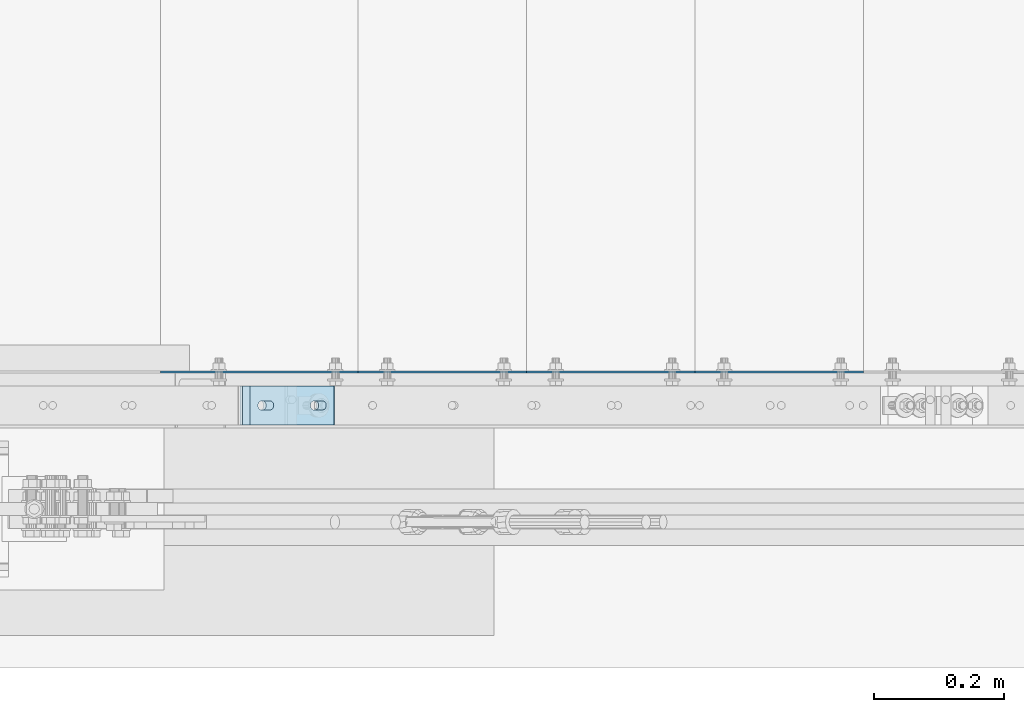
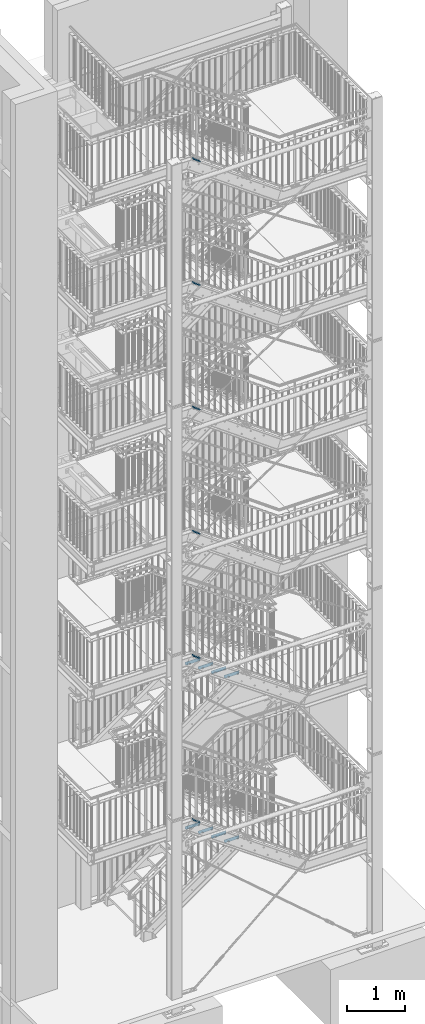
# One storey, part 166 of 821: 14 plates, 28 openings.
"""IFC2X3 building model written with IfcOpenShell, lengths in millimetres."""

from ifc_helpers import new_model, entity, si_unit, converted_unit, point, frame, frame_2d, origin, origin_with_axes, origin_2d_with_axis, place, context, project, spatial, polyline, circle_curve, line_curve, trimmed, segment, composite_curve, circle, outline, extrude, material, layer, layer_set, element, save


model = new_model("IFC2X3")

# Units and contexts
model_context = context("Model", 3, precision=1e-09, world=origin_with_axes())
ifc_project = project(units=[si_unit("LENGTHUNIT", "METRE", prefix="MILLI"), si_unit("AREAUNIT", "SQUARE_METRE"), si_unit("VOLUMEUNIT", "CUBIC_METRE"), converted_unit("PLANEANGLEUNIT", "DEGREE", entity("IfcPlaneAngleMeasure", 0.01745329), si_unit("PLANEANGLEUNIT", "RADIAN"), dimensions=[0, 0, 0, 0, 0, 0, 0])], contexts=[model_context])

# Site, building, storey
site_placement = place(None, origin_with_axes())
site = spatial("IfcSite", under=ifc_project, at=site_placement, Name="Cnopf'sche Kinderklinik", CompositionType="ELEMENT")
building_placement = place(site_placement, origin_with_axes())
building = spatial("IfcBuilding", under=site, at=building_placement, Name="Struktur 1", CompositionType="ELEMENT")
storey_placement = place(building_placement, origin_with_axes())
storey = spatial("IfcBuildingStorey", under=building, at=storey_placement, Name="Default Storey", CompositionType="ELEMENT", Elevation=0.0)

# Plate, openings
ifc_material = material(Name="S235JR")
ifc_layer_1 = layer(ifc_material, 20.0)
ifc_layer_set_1 = layer_set([ifc_layer_1], Name="S235JR")
plate_1_placement = place(None, frame((5314.268058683, 4496.736971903, 3831.785480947), z_axis=(0.579973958, 0.0, 0.814635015), x_axis=(0.814635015, 0.0, -0.579973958)))
plate_1 = element("IfcPlate", 1, at=plate_1_placement, inside=storey, material=ifc_layer_set_1, Name="Plate#510", ObjectType="Plate#510", context=model_context, shape_type="SweptSolid", body=[
    extrude(outline(polyline([(0.0, 0.0), (160.0, 0.0), (160.0, 60.0), (0.0, 60.0), (0.0, 0.0)])), origin_with_axes(), (0.0, 0.0, 1.0), 20.0),
])
opening_1_placement = place(plate_1_placement, frame((38.0, 37.001, 20.5), z_axis=(0.0, 0.0, 1.0), x_axis=(-1.0, 0.0, 0.0)))
element("IfcOpeningElement", 2, at=opening_1_placement, cuts=plate_1, ObjectType="Opening", context=model_context, shape_type="SweptSolid", body=[
    extrude(outline(composite_curve([segment(trimmed(line_curve((0.0, 0.0), (1.0, 0.0), 16.0), [point((0.0, 0.0))], [point((16.0, 0.0))], True, "CARTESIAN"), True, "CONTINUOUS"), segment(trimmed(circle_curve(frame_2d((16.0, 7.001), x_axis=(1.0, 0.0)), 7.001), [point((16.0, 0.0))], [point((16.0, 14.002))], True, "CARTESIAN"), True, "CONTINUOUS"), segment(trimmed(line_curve((16.0, 14.002), (-1.0, 0.0), 16.0), [point((16.0, 14.002))], [point((0.0, 14.002))], True, "CARTESIAN"), True, "CONTINUOUS"), segment(trimmed(circle_curve(frame_2d((0.0, 7.001), x_axis=(1.0, 0.0)), 7.001), [point((0.0, 14.002))], [point((0.0, 0.0))], True, "CARTESIAN"), True, "CONTINUOUS")], self_intersect=False)), origin(), (0.0, 0.0, -1.0), 21.0),
])
opening_2_placement = place(plate_1_placement, frame((138.0, 37.001, 20.5), z_axis=(0.0, 0.0, 1.0), x_axis=(-1.0, 0.0, 0.0)))
element("IfcOpeningElement", 3, at=opening_2_placement, cuts=plate_1, ObjectType="Opening", context=model_context, shape_type="SweptSolid", body=[
    extrude(outline(composite_curve([segment(trimmed(line_curve((0.0, 0.0), (1.0, 0.0), 16.0), [point((0.0, 0.0))], [point((16.0, 0.0))], True, "CARTESIAN"), True, "CONTINUOUS"), segment(trimmed(circle_curve(frame_2d((16.0, 7.001), x_axis=(1.0, 0.0)), 7.001), [point((16.0, 0.0))], [point((16.0, 14.002))], True, "CARTESIAN"), True, "CONTINUOUS"), segment(trimmed(line_curve((16.0, 14.002), (-1.0, 0.0), 16.0), [point((16.0, 14.002))], [point((0.0, 14.002))], True, "CARTESIAN"), True, "CONTINUOUS"), segment(trimmed(circle_curve(frame_2d((0.0, 7.001), x_axis=(1.0, 0.0)), 7.001), [point((0.0, 14.002))], [point((0.0, 0.0))], True, "CARTESIAN"), True, "CONTINUOUS")], self_intersect=False)), origin(), (0.0, 0.0, -1.0), 21.0),
])

plate_2_placement = place(None, frame((5317.774118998, 4496.736971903, 7303.011363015), z_axis=(0.57512827, 0.0, 0.818063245), x_axis=(0.818063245, 0.0, -0.57512827)))
plate_2 = element("IfcPlate", 4, at=plate_2_placement, inside=storey, material=ifc_layer_set_1, Name="Plate#511", ObjectType="Plate#511", context=model_context, shape_type="SweptSolid", body=[
    extrude(outline(polyline([(0.0, 0.0), (160.0, 0.0), (160.0, 60.0), (0.0, 60.0), (0.0, 0.0)])), origin_with_axes(), (0.0, 0.0, 1.0), 20.0),
])
opening_3_placement = place(plate_2_placement, frame((38.0, 37.001, 20.5), z_axis=(0.0, 0.0, 1.0), x_axis=(-1.0, 0.0, 0.0)))
element("IfcOpeningElement", 5, at=opening_3_placement, cuts=plate_2, ObjectType="Opening", context=model_context, shape_type="SweptSolid", body=[
    extrude(outline(composite_curve([segment(trimmed(line_curve((0.0, 0.0), (1.0, 0.0), 16.0), [point((0.0, 0.0))], [point((16.0, 0.0))], True, "CARTESIAN"), True, "CONTINUOUS"), segment(trimmed(circle_curve(frame_2d((16.0, 7.001), x_axis=(1.0, 0.0)), 7.001), [point((16.0, 0.0))], [point((16.0, 14.002))], True, "CARTESIAN"), True, "CONTINUOUS"), segment(trimmed(line_curve((16.0, 14.002), (-1.0, 0.0), 16.0), [point((16.0, 14.002))], [point((0.0, 14.002))], True, "CARTESIAN"), True, "CONTINUOUS"), segment(trimmed(circle_curve(frame_2d((0.0, 7.001), x_axis=(1.0, 0.0)), 7.001), [point((0.0, 14.002))], [point((0.0, 0.0))], True, "CARTESIAN"), True, "CONTINUOUS")], self_intersect=False)), origin(), (0.0, 0.0, -1.0), 21.0),
])
opening_4_placement = place(plate_2_placement, frame((138.0, 37.001, 20.5), z_axis=(0.0, 0.0, 1.0), x_axis=(-1.0, 0.0, 0.0)))
element("IfcOpeningElement", 6, at=opening_4_placement, cuts=plate_2, ObjectType="Opening", context=model_context, shape_type="SweptSolid", body=[
    extrude(outline(composite_curve([segment(trimmed(line_curve((0.0, 0.0), (1.0, 0.0), 16.0), [point((0.0, 0.0))], [point((16.0, 0.0))], True, "CARTESIAN"), True, "CONTINUOUS"), segment(trimmed(circle_curve(frame_2d((16.0, 7.001), x_axis=(1.0, 0.0)), 7.001), [point((16.0, 0.0))], [point((16.0, 14.002))], True, "CARTESIAN"), True, "CONTINUOUS"), segment(trimmed(line_curve((16.0, 14.002), (-1.0, 0.0), 16.0), [point((16.0, 14.002))], [point((0.0, 14.002))], True, "CARTESIAN"), True, "CONTINUOUS"), segment(trimmed(circle_curve(frame_2d((0.0, 7.001), x_axis=(1.0, 0.0)), 7.001), [point((0.0, 14.002))], [point((0.0, 0.0))], True, "CARTESIAN"), True, "CONTINUOUS")], self_intersect=False)), origin(), (0.0, 0.0, -1.0), 21.0),
])

plate_3_placement = place(None, frame((5318.269214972, 4496.736971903, 9933.028874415), z_axis=(0.585945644, 0.0, 0.810350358), x_axis=(0.810350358, 0.0, -0.585945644)))
plate_3 = element("IfcPlate", 7, at=plate_3_placement, inside=storey, material=ifc_layer_set_1, Name="Plate#511", ObjectType="Plate#511", context=model_context, shape_type="SweptSolid", body=[
    extrude(outline(polyline([(0.0, 0.0), (160.0, 0.0), (160.0, 60.0), (0.0, 60.0), (0.0, 0.0)])), origin_with_axes(), (0.0, 0.0, 1.0), 20.0),
])
opening_5_placement = place(plate_3_placement, frame((38.0, 37.001, 20.5), z_axis=(0.0, 0.0, 1.0), x_axis=(-1.0, 0.0, 0.0)))
element("IfcOpeningElement", 8, at=opening_5_placement, cuts=plate_3, ObjectType="Opening", context=model_context, shape_type="SweptSolid", body=[
    extrude(outline(composite_curve([segment(trimmed(line_curve((0.0, 0.0), (1.0, 0.0), 16.0), [point((0.0, 0.0))], [point((16.0, 0.0))], True, "CARTESIAN"), True, "CONTINUOUS"), segment(trimmed(circle_curve(frame_2d((16.0, 7.001), x_axis=(1.0, 0.0)), 7.001), [point((16.0, 0.0))], [point((16.0, 14.002))], True, "CARTESIAN"), True, "CONTINUOUS"), segment(trimmed(line_curve((16.0, 14.002), (-1.0, 0.0), 16.0), [point((16.0, 14.002))], [point((0.0, 14.002))], True, "CARTESIAN"), True, "CONTINUOUS"), segment(trimmed(circle_curve(frame_2d((0.0, 7.001), x_axis=(1.0, 0.0)), 7.001), [point((0.0, 14.002))], [point((0.0, 0.0))], True, "CARTESIAN"), True, "CONTINUOUS")], self_intersect=False)), origin(), (0.0, 0.0, -1.0), 21.0),
])
opening_6_placement = place(plate_3_placement, frame((138.0, 37.001, 20.5), z_axis=(0.0, 0.0, 1.0), x_axis=(-1.0, 0.0, 0.0)))
element("IfcOpeningElement", 9, at=opening_6_placement, cuts=plate_3, ObjectType="Opening", context=model_context, shape_type="SweptSolid", body=[
    extrude(outline(composite_curve([segment(trimmed(line_curve((0.0, 0.0), (1.0, 0.0), 16.0), [point((0.0, 0.0))], [point((16.0, 0.0))], True, "CARTESIAN"), True, "CONTINUOUS"), segment(trimmed(circle_curve(frame_2d((16.0, 7.001), x_axis=(1.0, 0.0)), 7.001), [point((16.0, 0.0))], [point((16.0, 14.002))], True, "CARTESIAN"), True, "CONTINUOUS"), segment(trimmed(line_curve((16.0, 14.002), (-1.0, 0.0), 16.0), [point((16.0, 14.002))], [point((0.0, 14.002))], True, "CARTESIAN"), True, "CONTINUOUS"), segment(trimmed(circle_curve(frame_2d((0.0, 7.001), x_axis=(1.0, 0.0)), 7.001), [point((0.0, 14.002))], [point((0.0, 0.0))], True, "CARTESIAN"), True, "CONTINUOUS")], self_intersect=False)), origin(), (0.0, 0.0, -1.0), 21.0),
])

plate_4_placement = place(None, frame((5318.224195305, 4496.736971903, 12560.173392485), z_axis=(0.585213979, 0.0, 0.810878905), x_axis=(0.810878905, 0.0, -0.585213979)))
plate_4 = element("IfcPlate", 10, at=plate_4_placement, inside=storey, material=ifc_layer_set_1, Name="Plate#511", ObjectType="Plate#511", context=model_context, shape_type="SweptSolid", body=[
    extrude(outline(polyline([(0.0, 0.0), (160.0, 0.0), (160.0, 60.0), (0.0, 60.0), (0.0, 0.0)])), origin_with_axes(), (0.0, 0.0, 1.0), 20.0),
])
opening_7_placement = place(plate_4_placement, frame((38.0, 37.001, 20.5), z_axis=(0.0, 0.0, 1.0), x_axis=(-1.0, 0.0, 0.0)))
element("IfcOpeningElement", 11, at=opening_7_placement, cuts=plate_4, ObjectType="Opening", context=model_context, shape_type="SweptSolid", body=[
    extrude(outline(composite_curve([segment(trimmed(line_curve((0.0, 0.0), (1.0, 0.0), 16.0), [point((0.0, 0.0))], [point((16.0, 0.0))], True, "CARTESIAN"), True, "CONTINUOUS"), segment(trimmed(circle_curve(frame_2d((16.0, 7.001), x_axis=(1.0, 0.0)), 7.001), [point((16.0, 0.0))], [point((16.0, 14.002))], True, "CARTESIAN"), True, "CONTINUOUS"), segment(trimmed(line_curve((16.0, 14.002), (-1.0, 0.0), 16.0), [point((16.0, 14.002))], [point((0.0, 14.002))], True, "CARTESIAN"), True, "CONTINUOUS"), segment(trimmed(circle_curve(frame_2d((0.0, 7.001), x_axis=(1.0, 0.0)), 7.001), [point((0.0, 14.002))], [point((0.0, 0.0))], True, "CARTESIAN"), True, "CONTINUOUS")], self_intersect=False)), origin(), (0.0, 0.0, -1.0), 21.0),
])
opening_8_placement = place(plate_4_placement, frame((138.0, 37.001, 20.5), z_axis=(0.0, 0.0, 1.0), x_axis=(-1.0, 0.0, 0.0)))
element("IfcOpeningElement", 12, at=opening_8_placement, cuts=plate_4, ObjectType="Opening", context=model_context, shape_type="SweptSolid", body=[
    extrude(outline(composite_curve([segment(trimmed(line_curve((0.0, 0.0), (1.0, 0.0), 16.0), [point((0.0, 0.0))], [point((16.0, 0.0))], True, "CARTESIAN"), True, "CONTINUOUS"), segment(trimmed(circle_curve(frame_2d((16.0, 7.001), x_axis=(1.0, 0.0)), 7.001), [point((16.0, 0.0))], [point((16.0, 14.002))], True, "CARTESIAN"), True, "CONTINUOUS"), segment(trimmed(line_curve((16.0, 14.002), (-1.0, 0.0), 16.0), [point((16.0, 14.002))], [point((0.0, 14.002))], True, "CARTESIAN"), True, "CONTINUOUS"), segment(trimmed(circle_curve(frame_2d((0.0, 7.001), x_axis=(1.0, 0.0)), 7.001), [point((0.0, 14.002))], [point((0.0, 0.0))], True, "CARTESIAN"), True, "CONTINUOUS")], self_intersect=False)), origin(), (0.0, 0.0, -1.0), 21.0),
])

plate_5_placement = place(None, frame((5318.296225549, 4496.736971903, 15194.942105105), z_axis=(0.586383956, 0.0, 0.810033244), x_axis=(0.810033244, 0.0, -0.586383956)))
plate_5 = element("IfcPlate", 13, at=plate_5_placement, inside=storey, material=ifc_layer_set_1, Name="Plate#511", ObjectType="Plate#511", context=model_context, shape_type="SweptSolid", body=[
    extrude(outline(polyline([(0.0, 0.0), (160.0, 0.0), (160.0, 60.0), (0.0, 60.0), (0.0, 0.0)])), origin_with_axes(), (0.0, 0.0, 1.0), 20.0),
])
opening_9_placement = place(plate_5_placement, frame((38.0, 37.001, 20.5), z_axis=(0.0, 0.0, 1.0), x_axis=(-1.0, 0.0, 0.0)))
element("IfcOpeningElement", 14, at=opening_9_placement, cuts=plate_5, ObjectType="Opening", context=model_context, shape_type="SweptSolid", body=[
    extrude(outline(composite_curve([segment(trimmed(line_curve((0.0, 0.0), (1.0, 0.0), 16.0), [point((0.0, 0.0))], [point((16.0, 0.0))], True, "CARTESIAN"), True, "CONTINUOUS"), segment(trimmed(circle_curve(frame_2d((16.0, 7.001), x_axis=(1.0, 0.0)), 7.001), [point((16.0, 0.0))], [point((16.0, 14.002))], True, "CARTESIAN"), True, "CONTINUOUS"), segment(trimmed(line_curve((16.0, 14.002), (-1.0, 0.0), 16.0), [point((16.0, 14.002))], [point((0.0, 14.002))], True, "CARTESIAN"), True, "CONTINUOUS"), segment(trimmed(circle_curve(frame_2d((0.0, 7.001), x_axis=(1.0, 0.0)), 7.001), [point((0.0, 14.002))], [point((0.0, 0.0))], True, "CARTESIAN"), True, "CONTINUOUS")], self_intersect=False)), origin(), (0.0, 0.0, -1.0), 21.0),
])
opening_10_placement = place(plate_5_placement, frame((138.0, 37.001, 20.5), z_axis=(0.0, 0.0, 1.0), x_axis=(-1.0, 0.0, 0.0)))
element("IfcOpeningElement", 15, at=opening_10_placement, cuts=plate_5, ObjectType="Opening", context=model_context, shape_type="SweptSolid", body=[
    extrude(outline(composite_curve([segment(trimmed(line_curve((0.0, 0.0), (1.0, 0.0), 16.0), [point((0.0, 0.0))], [point((16.0, 0.0))], True, "CARTESIAN"), True, "CONTINUOUS"), segment(trimmed(circle_curve(frame_2d((16.0, 7.001), x_axis=(1.0, 0.0)), 7.001), [point((16.0, 0.0))], [point((16.0, 14.002))], True, "CARTESIAN"), True, "CONTINUOUS"), segment(trimmed(line_curve((16.0, 14.002), (-1.0, 0.0), 16.0), [point((16.0, 14.002))], [point((0.0, 14.002))], True, "CARTESIAN"), True, "CONTINUOUS"), segment(trimmed(circle_curve(frame_2d((0.0, 7.001), x_axis=(1.0, 0.0)), 7.001), [point((0.0, 14.002))], [point((0.0, 0.0))], True, "CARTESIAN"), True, "CONTINUOUS")], self_intersect=False)), origin(), (0.0, 0.0, -1.0), 21.0),
])

plate_6_placement = place(None, frame((5318.161163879, 4496.736971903, 17815.375512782), z_axis=(0.584187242, 0.0, 0.811618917), x_axis=(0.811618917, 0.0, -0.584187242)))
plate_6 = element("IfcPlate", 16, at=plate_6_placement, inside=storey, material=ifc_layer_set_1, Name="Plate#511", ObjectType="Plate#511", context=model_context, shape_type="SweptSolid", body=[
    extrude(outline(polyline([(0.0, 0.0), (160.0, 0.0), (160.0, 60.0), (0.0, 60.0), (0.0, 0.0)])), origin_with_axes(), (0.0, 0.0, 1.0), 20.0),
])
opening_11_placement = place(plate_6_placement, frame((38.0, 37.001, 20.5), z_axis=(0.0, 0.0, 1.0), x_axis=(-1.0, 0.0, 0.0)))
element("IfcOpeningElement", 17, at=opening_11_placement, cuts=plate_6, ObjectType="Opening", context=model_context, shape_type="SweptSolid", body=[
    extrude(outline(composite_curve([segment(trimmed(line_curve((0.0, 0.0), (1.0, 0.0), 16.0), [point((0.0, 0.0))], [point((16.0, 0.0))], True, "CARTESIAN"), True, "CONTINUOUS"), segment(trimmed(circle_curve(frame_2d((16.0, 7.001), x_axis=(1.0, 0.0)), 7.001), [point((16.0, 0.0))], [point((16.0, 14.002))], True, "CARTESIAN"), True, "CONTINUOUS"), segment(trimmed(line_curve((16.0, 14.002), (-1.0, 0.0), 16.0), [point((16.0, 14.002))], [point((0.0, 14.002))], True, "CARTESIAN"), True, "CONTINUOUS"), segment(trimmed(circle_curve(frame_2d((0.0, 7.001), x_axis=(1.0, 0.0)), 7.001), [point((0.0, 14.002))], [point((0.0, 0.0))], True, "CARTESIAN"), True, "CONTINUOUS")], self_intersect=False)), origin(), (0.0, 0.0, -1.0), 21.0),
])
opening_12_placement = place(plate_6_placement, frame((138.0, 37.001, 20.5), z_axis=(0.0, 0.0, 1.0), x_axis=(-1.0, 0.0, 0.0)))
element("IfcOpeningElement", 18, at=opening_12_placement, cuts=plate_6, ObjectType="Opening", context=model_context, shape_type="SweptSolid", body=[
    extrude(outline(composite_curve([segment(trimmed(line_curve((0.0, 0.0), (1.0, 0.0), 16.0), [point((0.0, 0.0))], [point((16.0, 0.0))], True, "CARTESIAN"), True, "CONTINUOUS"), segment(trimmed(circle_curve(frame_2d((16.0, 7.001), x_axis=(1.0, 0.0)), 7.001), [point((16.0, 0.0))], [point((16.0, 14.002))], True, "CARTESIAN"), True, "CONTINUOUS"), segment(trimmed(line_curve((16.0, 14.002), (-1.0, 0.0), 16.0), [point((16.0, 14.002))], [point((0.0, 14.002))], True, "CARTESIAN"), True, "CONTINUOUS"), segment(trimmed(circle_curve(frame_2d((0.0, 7.001), x_axis=(1.0, 0.0)), 7.001), [point((0.0, 14.002))], [point((0.0, 0.0))], True, "CARTESIAN"), True, "CONTINUOUS")], self_intersect=False)), origin(), (0.0, 0.0, -1.0), 21.0),
])

ifc_layer_2 = layer(ifc_material, 3.0)
ifc_layer_set_2 = layer_set([ifc_layer_2], Name="S235JR")
plate_7_placement = place(None, frame((5756.713402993, 4576.736971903, 3516.7894736), z_axis=(0.0, 1.0, 0.0), x_axis=(0.0, 0.0, -1.0)))
plate_7 = element("IfcPlate", 19, at=plate_7_placement, inside=storey, material=ifc_layer_set_2, Name="Grate_Step#44", ObjectType="Grate_Step#44", context=model_context, shape_type="SweptSolid", body=[
    extrude(outline(polyline([(0.0, 0.0), (70.0, 0.0), (70.0, 275.0), (40.0, 305.0), (0.0, 305.0), (0.0, 0.0)])), origin_with_axes(), (0.0, 0.0, 1.0), 3.0),
])
opening_13_placement = place(plate_7_placement, frame((55.0, 35.0, 3.5), z_axis=(0.0, 0.0, -1.0), x_axis=(0.0, 1.0, 0.0)))
element("IfcOpeningElement", 20, at=opening_13_placement, cuts=plate_7, ObjectType="Opening", context=model_context, shape_type="SweptSolid", body=[
    extrude(circle(Radius=7.001, at=origin_2d_with_axis()), origin(), (0.0, 0.0, 1.0), 4.0),
])
opening_14_placement = place(plate_7_placement, frame((55.0, 215.0, 3.5), z_axis=(0.0, 0.0, -1.0), x_axis=(0.0, 1.0, 0.0)))
element("IfcOpeningElement", 21, at=opening_14_placement, cuts=plate_7, ObjectType="Opening", context=model_context, shape_type="SweptSolid", body=[
    extrude(outline(composite_curve([segment(trimmed(line_curve((-9.5, -7.001), (1.0, 0.0), 19.0), [point((-9.5, -7.001))], [point((9.5, -7.001))], True, "CARTESIAN"), True, "CONTINUOUS"), segment(trimmed(circle_curve(frame_2d((9.5, 0.0), x_axis=(1.0, 0.0)), 7.001), [point((9.5, -7.001))], [point((9.5, 7.001))], True, "CARTESIAN"), True, "CONTINUOUS"), segment(trimmed(line_curve((9.5, 7.001), (-1.0, 0.0), 19.0), [point((9.5, 7.001))], [point((-9.5, 7.001))], True, "CARTESIAN"), True, "CONTINUOUS"), segment(trimmed(circle_curve(frame_2d((-9.5, 0.0), x_axis=(1.0, 0.0)), 7.001), [point((-9.5, 7.001))], [point((-9.5, -7.001))], True, "CARTESIAN"), True, "CONTINUOUS")], self_intersect=False)), origin(), (0.0, 0.0, 1.0), 4.0),
])

plate_8_placement = place(None, frame((6016.713402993, 4576.736971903, 3331.6842104), z_axis=(0.0, 1.0, 0.0), x_axis=(0.0, 0.0, -1.0)))
plate_8 = element("IfcPlate", 22, at=plate_8_placement, inside=storey, material=ifc_layer_set_2, Name="Grate_Step#37", ObjectType="Grate_Step#37", context=model_context, shape_type="SweptSolid", body=[
    extrude(outline(polyline([(0.0, 0.0), (70.0, 0.0), (70.0, 275.0), (40.0, 305.0), (0.0, 305.0), (0.0, 0.0)])), origin_with_axes(), (0.0, 0.0, 1.0), 3.0),
])
opening_15_placement = place(plate_8_placement, frame((55.0, 215.0, 3.5), z_axis=(0.0, 0.0, -1.0), x_axis=(0.0, 1.0, 0.0)))
element("IfcOpeningElement", 23, at=opening_15_placement, cuts=plate_8, ObjectType="Opening", context=model_context, shape_type="SweptSolid", body=[
    extrude(outline(composite_curve([segment(trimmed(line_curve((-9.5, -7.001), (1.0, 0.0), 19.0), [point((-9.5, -7.001))], [point((9.5, -7.001))], True, "CARTESIAN"), True, "CONTINUOUS"), segment(trimmed(circle_curve(frame_2d((9.5, 0.0), x_axis=(1.0, 0.0)), 7.001), [point((9.5, -7.001))], [point((9.5, 7.001))], True, "CARTESIAN"), True, "CONTINUOUS"), segment(trimmed(line_curve((9.5, 7.001), (-1.0, 0.0), 19.0), [point((9.5, 7.001))], [point((-9.5, 7.001))], True, "CARTESIAN"), True, "CONTINUOUS"), segment(trimmed(circle_curve(frame_2d((-9.5, 0.0), x_axis=(1.0, 0.0)), 7.001), [point((-9.5, 7.001))], [point((-9.5, -7.001))], True, "CARTESIAN"), True, "CONTINUOUS")], self_intersect=False)), origin(), (0.0, 0.0, 1.0), 4.0),
])
opening_16_placement = place(plate_8_placement, frame((55.0, 35.0, 3.5), z_axis=(0.0, 0.0, -1.0), x_axis=(0.0, 1.0, 0.0)))
element("IfcOpeningElement", 24, at=opening_16_placement, cuts=plate_8, ObjectType="Opening", context=model_context, shape_type="SweptSolid", body=[
    extrude(circle(Radius=7.001, at=origin_2d_with_axis()), origin(), (0.0, 0.0, 1.0), 4.0),
])

plate_9_placement = place(None, frame((6016.713402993, 4576.736971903, 6811.6315789), z_axis=(0.0, 1.0, 0.0), x_axis=(0.0, 0.0, -1.0)))
plate_9 = element("IfcPlate", 25, at=plate_9_placement, inside=storey, material=ifc_layer_set_2, Name="Grate_Step#37", ObjectType="Grate_Step#37", context=model_context, shape_type="SweptSolid", body=[
    extrude(outline(polyline([(0.0, 0.0), (70.0, 0.0), (70.0, 275.0), (40.0, 305.0), (0.0, 305.0), (0.0, 0.0)])), origin_with_axes(), (0.0, 0.0, 1.0), 3.0),
])
opening_17_placement = place(plate_9_placement, frame((55.0, 215.0, 3.5), z_axis=(0.0, 0.0, -1.0), x_axis=(0.0, 1.0, 0.0)))
element("IfcOpeningElement", 26, at=opening_17_placement, cuts=plate_9, ObjectType="Opening", context=model_context, shape_type="SweptSolid", body=[
    extrude(outline(composite_curve([segment(trimmed(line_curve((-9.5, -7.001), (1.0, 0.0), 19.0), [point((-9.5, -7.001))], [point((9.5, -7.001))], True, "CARTESIAN"), True, "CONTINUOUS"), segment(trimmed(circle_curve(frame_2d((9.5, 0.0), x_axis=(1.0, 0.0)), 7.001), [point((9.5, -7.001))], [point((9.5, 7.001))], True, "CARTESIAN"), True, "CONTINUOUS"), segment(trimmed(line_curve((9.5, 7.001), (-1.0, 0.0), 19.0), [point((9.5, 7.001))], [point((-9.5, 7.001))], True, "CARTESIAN"), True, "CONTINUOUS"), segment(trimmed(circle_curve(frame_2d((-9.5, 0.0), x_axis=(1.0, 0.0)), 7.001), [point((-9.5, 7.001))], [point((-9.5, -7.001))], True, "CARTESIAN"), True, "CONTINUOUS")], self_intersect=False)), origin(), (0.0, 0.0, 1.0), 4.0),
])
opening_18_placement = place(plate_9_placement, frame((55.0, 35.0, 3.5), z_axis=(0.0, 0.0, -1.0), x_axis=(0.0, 1.0, 0.0)))
element("IfcOpeningElement", 27, at=opening_18_placement, cuts=plate_9, ObjectType="Opening", context=model_context, shape_type="SweptSolid", body=[
    extrude(circle(Radius=7.001, at=origin_2d_with_axis()), origin(), (0.0, 0.0, 1.0), 4.0),
])

plate_10_placement = place(None, frame((6276.713402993, 4576.736971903, 6628.8421052), z_axis=(0.0, 1.0, 0.0), x_axis=(0.0, 0.0, -1.0)))
plate_10 = element("IfcPlate", 28, at=plate_10_placement, inside=storey, material=ifc_layer_set_2, Name="Grate_Step#30", ObjectType="Grate_Step#30", context=model_context, shape_type="SweptSolid", body=[
    extrude(outline(polyline([(0.0, 0.0), (70.0, 0.0), (70.0, 275.0), (40.0, 305.0), (0.0, 305.0), (0.0, 0.0)])), origin_with_axes(), (0.0, 0.0, 1.0), 3.0),
])
opening_19_placement = place(plate_10_placement, frame((55.0, 35.0, 3.5), z_axis=(0.0, 0.0, -1.0), x_axis=(0.0, 1.0, 0.0)))
element("IfcOpeningElement", 29, at=opening_19_placement, cuts=plate_10, ObjectType="Opening", context=model_context, shape_type="SweptSolid", body=[
    extrude(circle(Radius=7.001, at=origin_2d_with_axis()), origin(), (0.0, 0.0, 1.0), 4.0),
])
opening_20_placement = place(plate_10_placement, frame((55.0, 215.0, 3.5), z_axis=(0.0, 0.0, -1.0), x_axis=(0.0, 1.0, 0.0)))
element("IfcOpeningElement", 30, at=opening_20_placement, cuts=plate_10, ObjectType="Opening", context=model_context, shape_type="SweptSolid", body=[
    extrude(outline(composite_curve([segment(trimmed(line_curve((-9.5, -7.001), (1.0, 0.0), 19.0), [point((-9.5, -7.001))], [point((9.5, -7.001))], True, "CARTESIAN"), True, "CONTINUOUS"), segment(trimmed(circle_curve(frame_2d((9.5, 0.0), x_axis=(1.0, 0.0)), 7.001), [point((9.5, -7.001))], [point((9.5, 7.001))], True, "CARTESIAN"), True, "CONTINUOUS"), segment(trimmed(line_curve((9.5, 7.001), (-1.0, 0.0), 19.0), [point((9.5, 7.001))], [point((-9.5, 7.001))], True, "CARTESIAN"), True, "CONTINUOUS"), segment(trimmed(circle_curve(frame_2d((-9.5, 0.0), x_axis=(1.0, 0.0)), 7.001), [point((-9.5, 7.001))], [point((-9.5, -7.001))], True, "CARTESIAN"), True, "CONTINUOUS")], self_intersect=False)), origin(), (0.0, 0.0, 1.0), 4.0),
])

plate_11_placement = place(None, frame((5496.713402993, 4576.736971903, 7177.2105263), z_axis=(0.0, 1.0, 0.0), x_axis=(0.0, 0.0, -1.0)))
plate_11 = element("IfcPlate", 31, at=plate_11_placement, inside=storey, material=ifc_layer_set_2, Name="Grate_Step#51", ObjectType="Grate_Step#51", context=model_context, shape_type="SweptSolid", body=[
    extrude(outline(polyline([(0.0, 0.0), (70.0, 0.0), (70.0, 275.0), (40.0, 305.0), (0.0, 305.0), (0.0, 0.0)])), origin_with_axes(), (0.0, 0.0, 1.0), 3.0),
])
opening_21_placement = place(plate_11_placement, frame((55.0, 215.0, 3.5), z_axis=(0.0, 0.0, -1.0), x_axis=(0.0, 1.0, 0.0)))
element("IfcOpeningElement", 32, at=opening_21_placement, cuts=plate_11, ObjectType="Opening", context=model_context, shape_type="SweptSolid", body=[
    extrude(outline(composite_curve([segment(trimmed(line_curve((-9.5, -7.001), (1.0, 0.0), 19.0), [point((-9.5, -7.001))], [point((9.5, -7.001))], True, "CARTESIAN"), True, "CONTINUOUS"), segment(trimmed(circle_curve(frame_2d((9.5, 0.0), x_axis=(1.0, 0.0)), 7.001), [point((9.5, -7.001))], [point((9.5, 7.001))], True, "CARTESIAN"), True, "CONTINUOUS"), segment(trimmed(line_curve((9.5, 7.001), (-1.0, 0.0), 19.0), [point((9.5, 7.001))], [point((-9.5, 7.001))], True, "CARTESIAN"), True, "CONTINUOUS"), segment(trimmed(circle_curve(frame_2d((-9.5, 0.0), x_axis=(1.0, 0.0)), 7.001), [point((-9.5, 7.001))], [point((-9.5, -7.001))], True, "CARTESIAN"), True, "CONTINUOUS")], self_intersect=False)), origin(), (0.0, 0.0, 1.0), 4.0),
])
opening_22_placement = place(plate_11_placement, frame((55.0, 35.0, 3.5), z_axis=(0.0, 0.0, -1.0), x_axis=(0.0, 1.0, 0.0)))
element("IfcOpeningElement", 33, at=opening_22_placement, cuts=plate_11, ObjectType="Opening", context=model_context, shape_type="SweptSolid", body=[
    extrude(circle(Radius=7.001, at=origin_2d_with_axis()), origin(), (0.0, 0.0, 1.0), 4.0),
])

plate_12_placement = place(None, frame((5496.713402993, 4576.736971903, 3701.8947368), z_axis=(0.0, 1.0, 0.0), x_axis=(0.0, 0.0, -1.0)))
plate_12 = element("IfcPlate", 34, at=plate_12_placement, inside=storey, material=ifc_layer_set_2, Name="Grate_Step#51", ObjectType="Grate_Step#51", context=model_context, shape_type="SweptSolid", body=[
    extrude(outline(polyline([(0.0, 0.0), (70.0, 0.0), (70.0, 275.0), (40.0, 305.0), (0.0, 305.0), (0.0, 0.0)])), origin_with_axes(), (0.0, 0.0, 1.0), 3.0),
])
opening_23_placement = place(plate_12_placement, frame((55.0, 215.0, 3.5), z_axis=(0.0, 0.0, -1.0), x_axis=(0.0, 1.0, 0.0)))
element("IfcOpeningElement", 35, at=opening_23_placement, cuts=plate_12, ObjectType="Opening", context=model_context, shape_type="SweptSolid", body=[
    extrude(outline(composite_curve([segment(trimmed(line_curve((-9.5, -7.001), (1.0, 0.0), 19.0), [point((-9.5, -7.001))], [point((9.5, -7.001))], True, "CARTESIAN"), True, "CONTINUOUS"), segment(trimmed(circle_curve(frame_2d((9.5, 0.0), x_axis=(1.0, 0.0)), 7.001), [point((9.5, -7.001))], [point((9.5, 7.001))], True, "CARTESIAN"), True, "CONTINUOUS"), segment(trimmed(line_curve((9.5, 7.001), (-1.0, 0.0), 19.0), [point((9.5, 7.001))], [point((-9.5, 7.001))], True, "CARTESIAN"), True, "CONTINUOUS"), segment(trimmed(circle_curve(frame_2d((-9.5, 0.0), x_axis=(1.0, 0.0)), 7.001), [point((-9.5, 7.001))], [point((-9.5, -7.001))], True, "CARTESIAN"), True, "CONTINUOUS")], self_intersect=False)), origin(), (0.0, 0.0, 1.0), 4.0),
])
opening_24_placement = place(plate_12_placement, frame((55.0, 35.0, 3.5), z_axis=(0.0, 0.0, -1.0), x_axis=(0.0, 1.0, 0.0)))
element("IfcOpeningElement", 36, at=opening_24_placement, cuts=plate_12, ObjectType="Opening", context=model_context, shape_type="SweptSolid", body=[
    extrude(circle(Radius=7.001, at=origin_2d_with_axis()), origin(), (0.0, 0.0, 1.0), 4.0),
])

plate_13_placement = place(None, frame((6276.713402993, 4576.736971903, 3146.5789472), z_axis=(0.0, 1.0, 0.0), x_axis=(0.0, 0.0, -1.0)))
plate_13 = element("IfcPlate", 37, at=plate_13_placement, inside=storey, material=ifc_layer_set_2, Name="Grate_Step#30", ObjectType="Grate_Step#30", context=model_context, shape_type="SweptSolid", body=[
    extrude(outline(polyline([(0.0, 0.0), (70.0, 0.0), (70.0, 275.0), (40.0, 305.0), (0.0, 305.0), (0.0, 0.0)])), origin_with_axes(), (0.0, 0.0, 1.0), 3.0),
])
opening_25_placement = place(plate_13_placement, frame((55.0, 35.0, 3.5), z_axis=(0.0, 0.0, -1.0), x_axis=(0.0, 1.0, 0.0)))
element("IfcOpeningElement", 38, at=opening_25_placement, cuts=plate_13, ObjectType="Opening", context=model_context, shape_type="SweptSolid", body=[
    extrude(circle(Radius=7.001, at=origin_2d_with_axis()), origin(), (0.0, 0.0, 1.0), 4.0),
])
opening_26_placement = place(plate_13_placement, frame((55.0, 215.0, 3.5), z_axis=(0.0, 0.0, -1.0), x_axis=(0.0, 1.0, 0.0)))
element("IfcOpeningElement", 39, at=opening_26_placement, cuts=plate_13, ObjectType="Opening", context=model_context, shape_type="SweptSolid", body=[
    extrude(outline(composite_curve([segment(trimmed(line_curve((-9.5, -7.001), (1.0, 0.0), 19.0), [point((-9.5, -7.001))], [point((9.5, -7.001))], True, "CARTESIAN"), True, "CONTINUOUS"), segment(trimmed(circle_curve(frame_2d((9.5, 0.0), x_axis=(1.0, 0.0)), 7.001), [point((9.5, -7.001))], [point((9.5, 7.001))], True, "CARTESIAN"), True, "CONTINUOUS"), segment(trimmed(line_curve((9.5, 7.001), (-1.0, 0.0), 19.0), [point((9.5, 7.001))], [point((-9.5, 7.001))], True, "CARTESIAN"), True, "CONTINUOUS"), segment(trimmed(circle_curve(frame_2d((-9.5, 0.0), x_axis=(1.0, 0.0)), 7.001), [point((-9.5, 7.001))], [point((-9.5, -7.001))], True, "CARTESIAN"), True, "CONTINUOUS")], self_intersect=False)), origin(), (0.0, 0.0, 1.0), 4.0),
])

plate_14_placement = place(None, frame((5756.713402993, 4576.736971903, 6994.4210526), z_axis=(0.0, 1.0, 0.0), x_axis=(0.0, 0.0, -1.0)))
plate_14 = element("IfcPlate", 40, at=plate_14_placement, inside=storey, material=ifc_layer_set_2, Name="Grate_Step#44", ObjectType="Grate_Step#44", context=model_context, shape_type="SweptSolid", body=[
    extrude(outline(polyline([(0.0, 0.0), (70.0, 0.0), (70.0, 275.0), (40.0, 305.0), (0.0, 305.0), (0.0, 0.0)])), origin_with_axes(), (0.0, 0.0, 1.0), 3.0),
])
opening_27_placement = place(plate_14_placement, frame((55.0, 215.0, 3.5), z_axis=(0.0, 0.0, -1.0), x_axis=(0.0, 1.0, 0.0)))
element("IfcOpeningElement", 41, at=opening_27_placement, cuts=plate_14, ObjectType="Opening", context=model_context, shape_type="SweptSolid", body=[
    extrude(outline(composite_curve([segment(trimmed(line_curve((-9.5, -7.001), (1.0, 0.0), 19.0), [point((-9.5, -7.001))], [point((9.5, -7.001))], True, "CARTESIAN"), True, "CONTINUOUS"), segment(trimmed(circle_curve(frame_2d((9.5, 0.0), x_axis=(1.0, 0.0)), 7.001), [point((9.5, -7.001))], [point((9.5, 7.001))], True, "CARTESIAN"), True, "CONTINUOUS"), segment(trimmed(line_curve((9.5, 7.001), (-1.0, 0.0), 19.0), [point((9.5, 7.001))], [point((-9.5, 7.001))], True, "CARTESIAN"), True, "CONTINUOUS"), segment(trimmed(circle_curve(frame_2d((-9.5, 0.0), x_axis=(1.0, 0.0)), 7.001), [point((-9.5, 7.001))], [point((-9.5, -7.001))], True, "CARTESIAN"), True, "CONTINUOUS")], self_intersect=False)), origin(), (0.0, 0.0, 1.0), 4.0),
])
opening_28_placement = place(plate_14_placement, frame((55.0, 35.0, 3.5), z_axis=(0.0, 0.0, -1.0), x_axis=(0.0, 1.0, 0.0)))
element("IfcOpeningElement", 42, at=opening_28_placement, cuts=plate_14, ObjectType="Opening", context=model_context, shape_type="SweptSolid", body=[
    extrude(circle(Radius=7.001, at=origin_2d_with_axis()), origin(), (0.0, 0.0, 1.0), 4.0),
])

save(model, "model.ifc")
